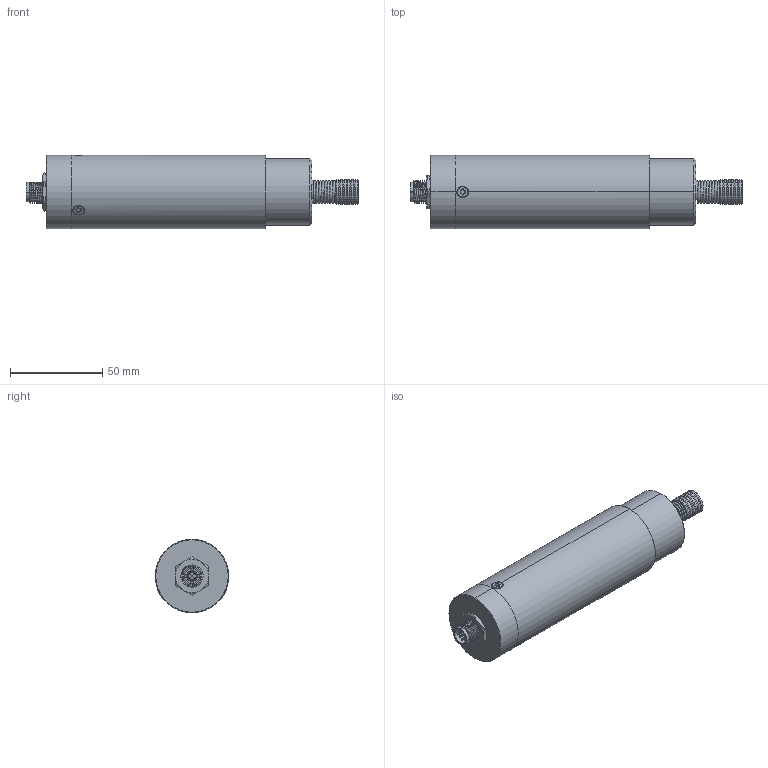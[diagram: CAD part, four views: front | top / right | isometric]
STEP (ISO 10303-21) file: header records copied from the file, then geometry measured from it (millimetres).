
FILE_DESCRIPTION (( 'STEP AP214' ), '1' );
FILE_NAME ('Pluto 10CA-TA.STEP', '2014-05-21T12:52:16', ( 'davide' ), ( '' ), 'SwSTEP 2.0', 'SolidWorks 2014', '' );
FILE_SCHEMA (( 'AUTOMOTIVE_DESIGN' ));
Length unit declared in the file: millimetre
Products named in the file (1): Pluto 10CA-TA
Bounding box: 179.5 x 39.8 x 39.8 mm (x, y, z)
Volume: 130263.4 mm3; surface area: 58656.5 mm2
Topology: 18 solids, 18 shells, 605 faces, 1431 edges, 880 vertices
Faces by surface type: cylinder 275, plane 155, torus 76, cone 62, bspline 32, sphere 5
Entity records: 36831 total; most frequent: CARTESIAN_POINT 16223, DIRECTION 3016, ORIENTED_EDGE 2782, EDGE_CURVE 1391, AXIS2_PLACEMENT_3D 1254, VERTEX_POINT 871, EDGE_LOOP 692, CIRCLE 680
